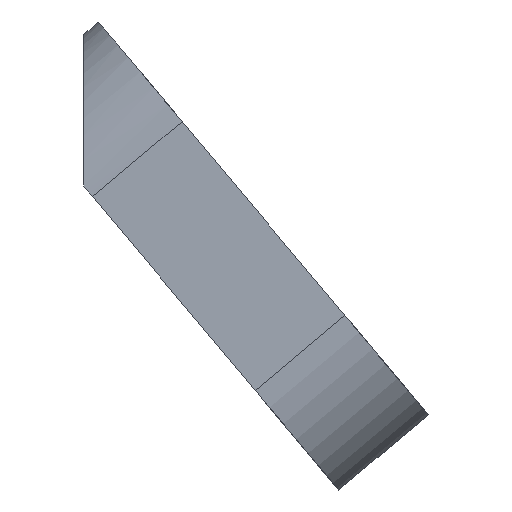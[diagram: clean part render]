
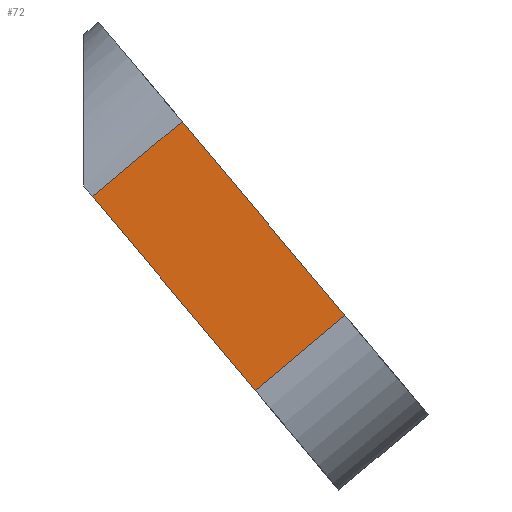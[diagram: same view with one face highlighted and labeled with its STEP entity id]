
A CAD part, left-side view. The second image highlights one B-rep face of the part: STEP entity #72.
In plain terms, the highlighted planar face has unit normal (-1, 0, 0).
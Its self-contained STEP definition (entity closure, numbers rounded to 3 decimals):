
#72 = ADVANCED_FACE( '', ( #150 ), #151, .F. );
#150 = FACE_OUTER_BOUND( '', #238, .T. );
#151 = PLANE( '', #239 );
#238 = EDGE_LOOP( '', ( #320, #321, #322, #323 ) );
#239 = AXIS2_PLACEMENT_3D( '', #324, #325, #326 );
#320 = ORIENTED_EDGE( '', *, *, #526, .T. );
#321 = ORIENTED_EDGE( '', *, *, #527, .T. );
#322 = ORIENTED_EDGE( '', *, *, #528, .F. );
#323 = ORIENTED_EDGE( '', *, *, #529, .T. );
#324 = CARTESIAN_POINT( '', ( -3.75, -8.81, 3.502 ) );
#325 = DIRECTION( '', ( 1., 0., 0. ) );
#326 = DIRECTION( '', ( 0., 0., -1. ) );
#526 = EDGE_CURVE( '', #612, #613, #614, .T. );
#527 = EDGE_CURVE( '', #613, #615, #616, .T. );
#528 = EDGE_CURVE( '', #617, #615, #618, .T. );
#529 = EDGE_CURVE( '', #617, #612, #619, .T. );
#612 = VERTEX_POINT( '', #735 );
#613 = VERTEX_POINT( '', #736 );
#614 = LINE( '', #737, #738 );
#615 = VERTEX_POINT( '', #739 );
#616 = LINE( '', #740, #741 );
#617 = VERTEX_POINT( '', #742 );
#618 = LINE( '', #743, #744 );
#619 = LINE( '', #745, #746 );
#735 = CARTESIAN_POINT( '', ( -3.75, -7.579, 2.469 ) );
#736 = CARTESIAN_POINT( '', ( -3.75, -0.684, -3.316 ) );
#737 = CARTESIAN_POINT( '', ( -3.75, -8.81, 3.502 ) );
#738 = VECTOR( '', #887, 1000. );
#739 = CARTESIAN_POINT( '', ( -3.75, -13.219, -18.254 ) );
#740 = CARTESIAN_POINT( '', ( -3.75, -0.684, -3.316 ) );
#741 = VECTOR( '', #888, 1000. );
#742 = CARTESIAN_POINT( '', ( -3.75, -20.113, -12.469 ) );
#743 = CARTESIAN_POINT( '', ( -3.75, -21.344, -11.436 ) );
#744 = VECTOR( '', #889, 1000. );
#745 = CARTESIAN_POINT( '', ( -3.75, -7.579, 2.469 ) );
#746 = VECTOR( '', #890, 1000. );
#887 = DIRECTION( '', ( 0., 0.766, -0.643 ) );
#888 = DIRECTION( '', ( 0., -0.643, -0.766 ) );
#889 = DIRECTION( '', ( 0., 0.766, -0.643 ) );
#890 = DIRECTION( '', ( 0., 0.643, 0.766 ) );
